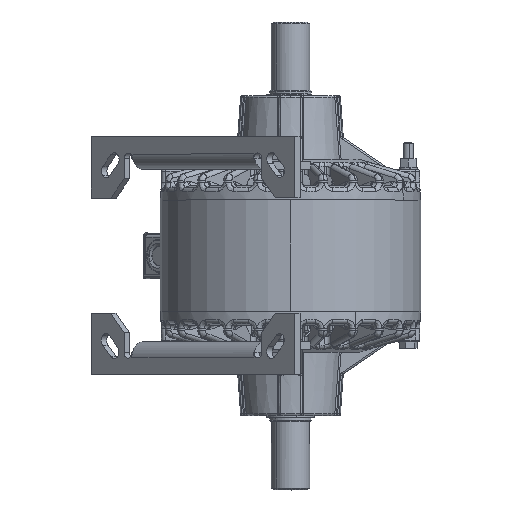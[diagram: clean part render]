
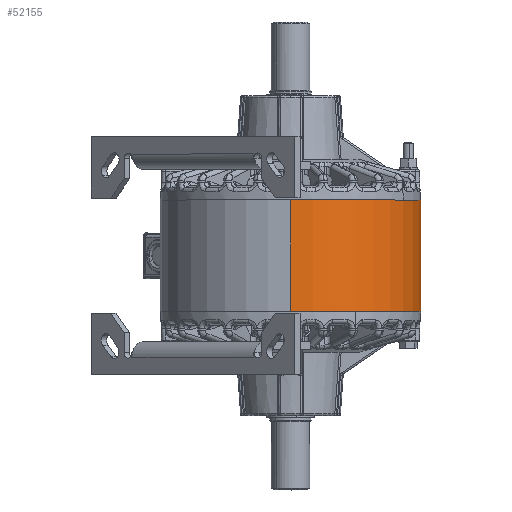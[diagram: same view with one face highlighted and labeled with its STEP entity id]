
A CAD part, top view. The second image highlights one B-rep face of the part: STEP entity #52155.
In plain terms, the highlighted cylindrical face has radius 107.95 mm (diameter 215.9 mm), a partial arc.
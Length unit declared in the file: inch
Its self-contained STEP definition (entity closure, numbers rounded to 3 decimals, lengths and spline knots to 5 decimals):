
#9712 = LINE ( 'NONE', #127876, #76030 ) ;
#10828 = DIRECTION ( 'NONE',  ( 0., 1., 0. ) ) ;
#16245 = CARTESIAN_POINT ( 'NONE',  ( 0., 3.625, 0. ) ) ;
#23798 = DIRECTION ( 'NONE',  ( 0., -1., 0. ) ) ;
#24060 = CARTESIAN_POINT ( 'NONE',  ( 0., 3.625, 4.25 ) ) ;
#24517 = VERTEX_POINT ( 'NONE', #99449 ) ;
#32582 = VERTEX_POINT ( 'NONE', #102494 ) ;
#34440 = CIRCLE ( 'NONE', #154655, 4.25 ) ;
#35095 = DIRECTION ( 'NONE',  ( 0., -1., 0. ) ) ;
#38528 = DIRECTION ( 'NONE',  ( 0., -1., 0. ) ) ;
#39826 = AXIS2_PLACEMENT_3D ( 'NONE', #40228, #38528, #132161 ) ;
#40228 = CARTESIAN_POINT ( 'NONE',  ( 0., 3.625, 0. ) ) ;
#50615 = VERTEX_POINT ( 'NONE', #167687 ) ;
#52155 = ADVANCED_FACE ( 'NONE', ( #158461 ), #143587, .T. ) ;
#52430 = VECTOR ( 'NONE', #23798, 39.37008 ) ;
#76030 = VECTOR ( 'NONE', #35095, 39.37008 ) ;
#78754 = EDGE_LOOP ( 'NONE', ( #138383, #135366, #134966, #166834 ) ) ;
#90419 = AXIS2_PLACEMENT_3D ( 'NONE', #16245, #136146, #164178 ) ;
#99449 = CARTESIAN_POINT ( 'NONE',  ( 0., 0., -4.25 ) ) ;
#101874 = CARTESIAN_POINT ( 'NONE',  ( 0., 0., 0. ) ) ;
#102494 = CARTESIAN_POINT ( 'NONE',  ( 0., 3.625, -4.25 ) ) ;
#118312 = LINE ( 'NONE', #145458, #52430 ) ;
#126949 = EDGE_CURVE ( 'NONE', #135113, #32582, #160377, .T. ) ;
#127876 = CARTESIAN_POINT ( 'NONE',  ( 0., 3.625, -4.25 ) ) ;
#132161 = DIRECTION ( 'NONE',  ( 0., 0., -1. ) ) ;
#134966 = ORIENTED_EDGE ( 'NONE', *, *, #143851, .T. ) ;
#135113 = VERTEX_POINT ( 'NONE', #24060 ) ;
#135366 = ORIENTED_EDGE ( 'NONE', *, *, #151301, .T. ) ;
#136146 = DIRECTION ( 'NONE',  ( 0., 1., 0. ) ) ;
#138383 = ORIENTED_EDGE ( 'NONE', *, *, #126949, .F. ) ;
#143587 = CYLINDRICAL_SURFACE ( 'NONE', #39826, 4.25 ) ;
#143851 = EDGE_CURVE ( 'NONE', #50615, #24517, #34440, .T. ) ;
#145458 = CARTESIAN_POINT ( 'NONE',  ( 0., 3.625, 4.25 ) ) ;
#151301 = EDGE_CURVE ( 'NONE', #135113, #50615, #118312, .T. ) ;
#154655 = AXIS2_PLACEMENT_3D ( 'NONE', #101874, #10828, #169296 ) ;
#158461 = FACE_OUTER_BOUND ( 'NONE', #78754, .T. ) ;
#160377 = CIRCLE ( 'NONE', #90419, 4.25 ) ;
#164178 = DIRECTION ( 'NONE',  ( 0., 0., 1. ) ) ;
#165390 = EDGE_CURVE ( 'NONE', #32582, #24517, #9712, .T. ) ;
#166834 = ORIENTED_EDGE ( 'NONE', *, *, #165390, .F. ) ;
#167687 = CARTESIAN_POINT ( 'NONE',  ( 0., 0., 4.25 ) ) ;
#169296 = DIRECTION ( 'NONE',  ( 0., 0., 1. ) ) ;
